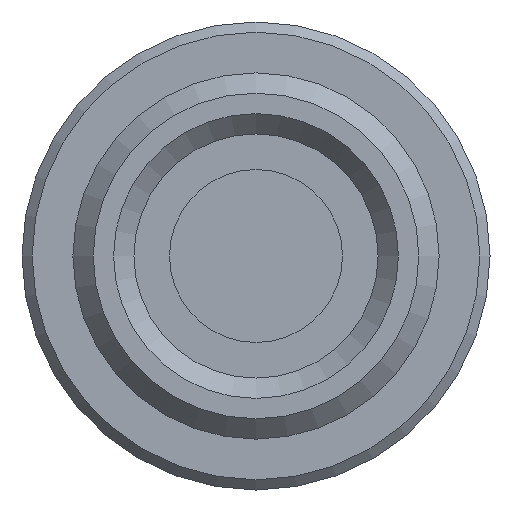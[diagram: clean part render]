
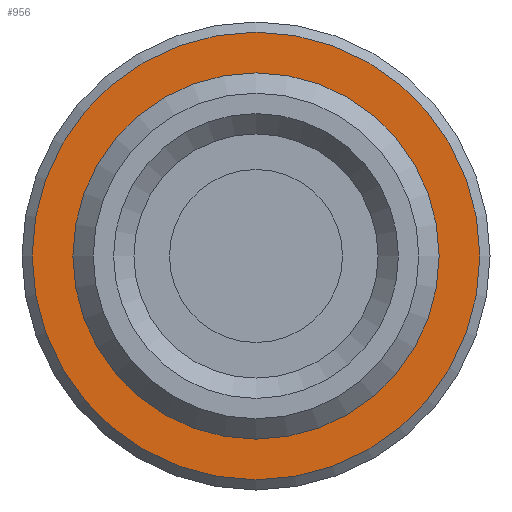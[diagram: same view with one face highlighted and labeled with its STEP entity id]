
A CAD part, front view. The second image highlights one B-rep face of the part: STEP entity #956.
In plain terms, the highlighted planar face has unit normal (0, -1, 0).
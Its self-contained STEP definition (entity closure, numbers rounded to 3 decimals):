
#44=FACE_BOUND('',#168,.T.);
#58=PLANE('',#1059);
#98=FACE_OUTER_BOUND('',#167,.T.);
#167=EDGE_LOOP('',(#675));
#168=EDGE_LOOP('',(#676));
#347=CIRCLE('',#1054,11.);
#351=CIRCLE('',#1060,9.);
#414=VERTEX_POINT('',#1524);
#418=VERTEX_POINT('',#1536);
#510=EDGE_CURVE('',#414,#414,#347,.T.);
#516=EDGE_CURVE('',#418,#418,#351,.T.);
#675=ORIENTED_EDGE('',*,*,#510,.F.);
#676=ORIENTED_EDGE('',*,*,#516,.F.);
#956=ADVANCED_FACE('',(#98,#44),#58,.T.);
#1054=AXIS2_PLACEMENT_3D('',#1525,#1216,#1217);
#1059=AXIS2_PLACEMENT_3D('',#1535,#1228,#1229);
#1060=AXIS2_PLACEMENT_3D('',#1537,#1230,#1231);
#1216=DIRECTION('center_axis',(0.,1.,0.));
#1217=DIRECTION('ref_axis',(-1.,0.,0.));
#1228=DIRECTION('center_axis',(0.,-1.,0.));
#1229=DIRECTION('ref_axis',(0.,0.,-1.));
#1230=DIRECTION('center_axis',(0.,-1.,0.));
#1231=DIRECTION('ref_axis',(1.,0.,0.));
#1524=CARTESIAN_POINT('',(11.,5.,0.));
#1525=CARTESIAN_POINT('Origin',(0.,5.,0.));
#1535=CARTESIAN_POINT('Origin',(9.,5.,0.));
#1536=CARTESIAN_POINT('',(-9.,5.,0.));
#1537=CARTESIAN_POINT('Origin',(0.,5.,0.));
